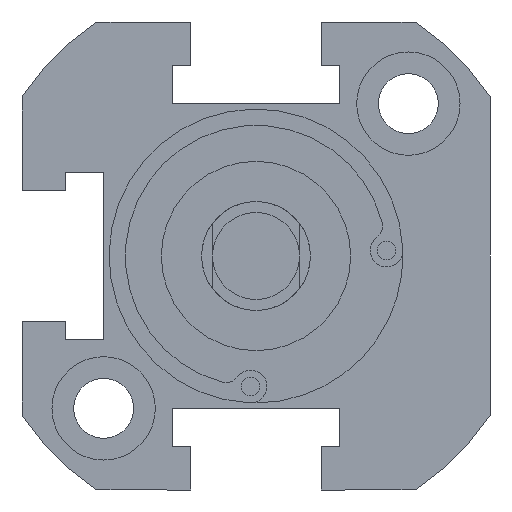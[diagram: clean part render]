
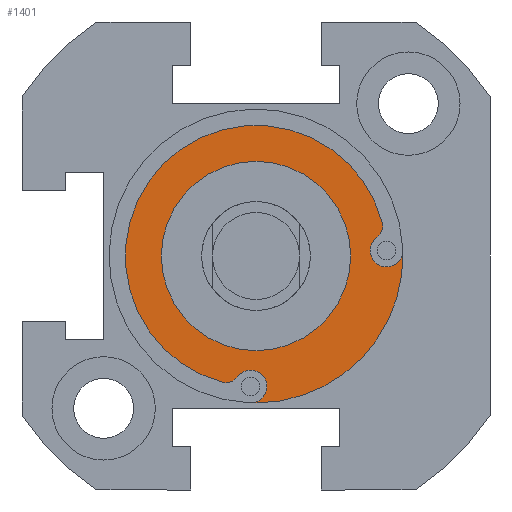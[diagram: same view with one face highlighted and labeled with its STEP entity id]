
A CAD part, front view. The second image highlights one B-rep face of the part: STEP entity #1401.
In plain terms, the highlighted planar face has unit normal (0, -1, 0).
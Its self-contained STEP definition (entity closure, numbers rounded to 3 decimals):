
#17 = DIRECTION ( 'NONE',  ( 0., 0., 1. ) ) ;
#31 = AXIS2_PLACEMENT_3D ( 'NONE', #798, #509, #3862 ) ;
#73 = DIRECTION ( 'NONE',  ( 0., 0., 1. ) ) ;
#202 = CARTESIAN_POINT ( 'NONE',  ( 0., -40.5, 0. ) ) ;
#268 = CARTESIAN_POINT ( 'NONE',  ( 13.493, -40.5, 0.444 ) ) ;
#272 = AXIS2_PLACEMENT_3D ( 'NONE', #764, #2883, #2311 ) ;
#357 = CIRCLE ( 'NONE', #1357, 1.3 ) ;
#414 = DIRECTION ( 'NONE',  ( 0., 1., 0. ) ) ;
#431 = EDGE_CURVE ( 'NONE', #1164, #775, #3787, .T. ) ;
#474 = DIRECTION ( 'NONE',  ( 0., 0., 1. ) ) ;
#476 = EDGE_CURVE ( 'NONE', #3442, #793, #875, .T. ) ;
#486 = CIRCLE ( 'NONE', #272, 1.5 ) ;
#495 = FACE_OUTER_BOUND ( 'NONE', #1927, .T. ) ;
#509 = DIRECTION ( 'NONE',  ( 0., 1., 0. ) ) ;
#538 = CIRCLE ( 'NONE', #1942, 1.5 ) ;
#556 = EDGE_CURVE ( 'NONE', #775, #1164, #978, .T. ) ;
#559 = VERTEX_POINT ( 'NONE', #2889 ) ;
#561 = ORIENTED_EDGE ( 'NONE', *, *, #476, .F. ) ;
#571 = AXIS2_PLACEMENT_3D ( 'NONE', #2606, #799, #474 ) ;
#579 = DIRECTION ( 'NONE',  ( 0., 0., -1. ) ) ;
#607 = ORIENTED_EDGE ( 'NONE', *, *, #1833, .T. ) ;
#629 = DIRECTION ( 'NONE',  ( 0., 1., 0. ) ) ;
#645 = CARTESIAN_POINT ( 'NONE',  ( 0., -40.5, 0. ) ) ;
#647 = CARTESIAN_POINT ( 'NONE',  ( -2.754, -40.5, -10.339 ) ) ;
#764 = CARTESIAN_POINT ( 'NONE',  ( 11.994, -40.5, 0.495 ) ) ;
#775 = VERTEX_POINT ( 'NONE', #3504 ) ;
#782 = ORIENTED_EDGE ( 'NONE', *, *, #3117, .T. ) ;
#789 = DIRECTION ( 'NONE',  ( 0., 1., 0. ) ) ;
#793 = VERTEX_POINT ( 'NONE', #1305 ) ;
#798 = CARTESIAN_POINT ( 'NONE',  ( 0., -40.5, 0. ) ) ;
#799 = DIRECTION ( 'NONE',  ( 0., 1., 0. ) ) ;
#875 = CIRCLE ( 'NONE', #571, 13.5 ) ;
#978 = CIRCLE ( 'NONE', #3884, 8.7 ) ;
#1012 = ORIENTED_EDGE ( 'NONE', *, *, #556, .T. ) ;
#1164 = VERTEX_POINT ( 'NONE', #1875 ) ;
#1241 = DIRECTION ( 'NONE',  ( 0., -1., 0. ) ) ;
#1250 = EDGE_CURVE ( 'NONE', #2169, #3250, #1826, .T. ) ;
#1295 = AXIS2_PLACEMENT_3D ( 'NONE', #1573, #3688, #73 ) ;
#1303 = DIRECTION ( 'NONE',  ( 0., -1., 0. ) ) ;
#1305 = CARTESIAN_POINT ( 'NONE',  ( -0.444, -40.5, -13.493 ) ) ;
#1357 = AXIS2_PLACEMENT_3D ( 'NONE', #1928, #1303, #3415 ) ;
#1373 = CARTESIAN_POINT ( 'NONE',  ( -1.705, -40.5, -11.107 ) ) ;
#1401 = ADVANCED_FACE ( 'NONE', ( #495, #3389 ), #3613, .T. ) ;
#1410 = AXIS2_PLACEMENT_3D ( 'NONE', #2413, #2160, #579 ) ;
#1418 = DIRECTION ( 'NONE',  ( 0., 0., 1. ) ) ;
#1419 = ORIENTED_EDGE ( 'NONE', *, *, #431, .T. ) ;
#1432 = CARTESIAN_POINT ( 'NONE',  ( 0., -40.5, 0. ) ) ;
#1542 = DIRECTION ( 'NONE',  ( 0., 0., 1. ) ) ;
#1553 = ORIENTED_EDGE ( 'NONE', *, *, #2611, .F. ) ;
#1563 = EDGE_LOOP ( 'NONE', ( #1419, #1012 ) ) ;
#1573 = CARTESIAN_POINT ( 'NONE',  ( 11.994, -40.5, 0.495 ) ) ;
#1585 = AXIS2_PLACEMENT_3D ( 'NONE', #202, #3214, #1418 ) ;
#1614 = ORIENTED_EDGE ( 'NONE', *, *, #3750, .F. ) ;
#1826 = CIRCLE ( 'NONE', #1295, 1.5 ) ;
#1833 = EDGE_CURVE ( 'NONE', #2591, #793, #538, .T. ) ;
#1841 = ORIENTED_EDGE ( 'NONE', *, *, #3327, .T. ) ;
#1875 = CARTESIAN_POINT ( 'NONE',  ( 0., -40.5, -8.7 ) ) ;
#1890 = ORIENTED_EDGE ( 'NONE', *, *, #1250, .F. ) ;
#1902 = CARTESIAN_POINT ( 'NONE',  ( 0., -40.5, 0. ) ) ;
#1927 = EDGE_LOOP ( 'NONE', ( #1553, #782, #3588, #607, #561, #1614, #1890, #3693, #1841 ) ) ;
#1928 = CARTESIAN_POINT ( 'NONE',  ( -2.754, -40.5, -10.339 ) ) ;
#1942 = AXIS2_PLACEMENT_3D ( 'NONE', #3332, #629, #1542 ) ;
#1995 = DIRECTION ( 'NONE',  ( 0., 0., 1. ) ) ;
#2011 = CARTESIAN_POINT ( 'NONE',  ( 11.596, -40.5, 3.089 ) ) ;
#2160 = DIRECTION ( 'NONE',  ( 0., -1., 0. ) ) ;
#2169 = VERTEX_POINT ( 'NONE', #3013 ) ;
#2205 = CIRCLE ( 'NONE', #2291, 1.3 ) ;
#2291 = AXIS2_PLACEMENT_3D ( 'NONE', #647, #2457, #2743 ) ;
#2311 = DIRECTION ( 'NONE',  ( 0., 0., 1. ) ) ;
#2412 = EDGE_CURVE ( 'NONE', #3330, #2591, #357, .T. ) ;
#2413 = CARTESIAN_POINT ( 'NONE',  ( 10.339, -40.5, 2.754 ) ) ;
#2457 = DIRECTION ( 'NONE',  ( 0., -1., 0. ) ) ;
#2461 = EDGE_CURVE ( 'NONE', #559, #2169, #486, .T. ) ;
#2510 = AXIS2_PLACEMENT_3D ( 'NONE', #645, #1241, #17 ) ;
#2525 = DIRECTION ( 'NONE',  ( 0., 0., 1. ) ) ;
#2591 = VERTEX_POINT ( 'NONE', #1373 ) ;
#2606 = CARTESIAN_POINT ( 'NONE',  ( 0., -40.5, 0. ) ) ;
#2611 = EDGE_CURVE ( 'NONE', #3476, #2864, #3138, .T. ) ;
#2700 = AXIS2_PLACEMENT_3D ( 'NONE', #1902, #414, #2525 ) ;
#2743 = DIRECTION ( 'NONE',  ( 0., 0., -1. ) ) ;
#2864 = VERTEX_POINT ( 'NONE', #2011 ) ;
#2883 = DIRECTION ( 'NONE',  ( 0., -1., 0. ) ) ;
#2889 = CARTESIAN_POINT ( 'NONE',  ( 11.107, -40.5, 1.705 ) ) ;
#3013 = CARTESIAN_POINT ( 'NONE',  ( 11.994, -40.5, -1.005 ) ) ;
#3019 = CARTESIAN_POINT ( 'NONE',  ( -2.754, -40.5, -11.639 ) ) ;
#3117 = EDGE_CURVE ( 'NONE', #3476, #3330, #2205, .T. ) ;
#3130 = CARTESIAN_POINT ( 'NONE',  ( -3.089, -40.5, -11.596 ) ) ;
#3138 = CIRCLE ( 'NONE', #2700, 12. ) ;
#3214 = DIRECTION ( 'NONE',  ( 0., 1., 0. ) ) ;
#3250 = VERTEX_POINT ( 'NONE', #268 ) ;
#3314 = CIRCLE ( 'NONE', #31, 13.5 ) ;
#3327 = EDGE_CURVE ( 'NONE', #559, #2864, #3563, .T. ) ;
#3330 = VERTEX_POINT ( 'NONE', #3019 ) ;
#3332 = CARTESIAN_POINT ( 'NONE',  ( -0.495, -40.5, -11.994 ) ) ;
#3389 = FACE_BOUND ( 'NONE', #1563, .T. ) ;
#3415 = DIRECTION ( 'NONE',  ( 0., 0., -1. ) ) ;
#3442 = VERTEX_POINT ( 'NONE', #3704 ) ;
#3476 = VERTEX_POINT ( 'NONE', #3130 ) ;
#3504 = CARTESIAN_POINT ( 'NONE',  ( 0., -40.5, 8.7 ) ) ;
#3563 = CIRCLE ( 'NONE', #1410, 1.3 ) ;
#3588 = ORIENTED_EDGE ( 'NONE', *, *, #2412, .T. ) ;
#3613 = PLANE ( 'NONE',  #2510 ) ;
#3688 = DIRECTION ( 'NONE',  ( 0., -1., 0. ) ) ;
#3693 = ORIENTED_EDGE ( 'NONE', *, *, #2461, .F. ) ;
#3704 = CARTESIAN_POINT ( 'NONE',  ( 0., -40.5, -13.5 ) ) ;
#3750 = EDGE_CURVE ( 'NONE', #3250, #3442, #3314, .T. ) ;
#3787 = CIRCLE ( 'NONE', #1585, 8.7 ) ;
#3862 = DIRECTION ( 'NONE',  ( 0., 0., 1. ) ) ;
#3884 = AXIS2_PLACEMENT_3D ( 'NONE', #1432, #789, #1995 ) ;
